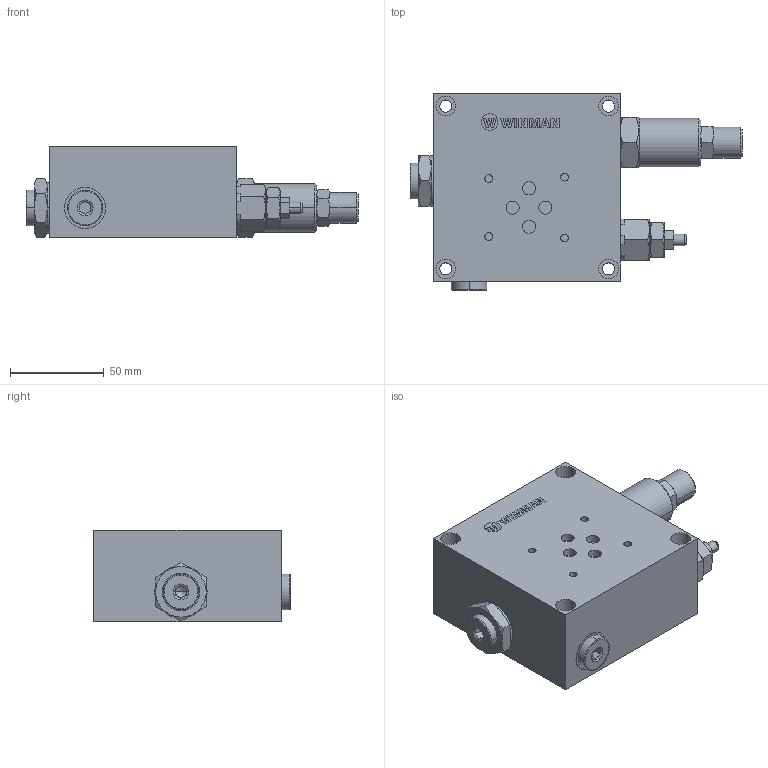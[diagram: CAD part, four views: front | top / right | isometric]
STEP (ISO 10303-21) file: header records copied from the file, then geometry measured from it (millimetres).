
FILE_DESCRIPTION (( 'STEP AP214' ), '1' );
FILE_NAME ('VD-CTP-03 (MDMY).STEP', '2017-11-02T15:05:05', ( '' ), ( '' ), 'SwSTEP 2.0', 'SolidWorks 2015', '' );
FILE_SCHEMA (( 'AUTOMOTIVE_DESIGN' ));
Length unit declared in the file: millimetre
Products named in the file (1): VD-CTP-03 (MDMY)
Bounding box: 177.4 x 104.8 x 49 mm (x, y, z)
Volume: 524340.8 mm3; surface area: 54385.6 mm2
Topology: 3 solids, 4 shells, 382 faces, 919 edges, 587 vertices
Faces by surface type: plane 194, cylinder 89, cone 80, bspline 19
Entity records: 13386 total; most frequent: CARTESIAN_POINT 3322, ORIENTED_EDGE 1826, DIRECTION 1739, EDGE_CURVE 913, AXIS2_PLACEMENT_3D 632, VERTEX_POINT 587, LINE 475, VECTOR 475
